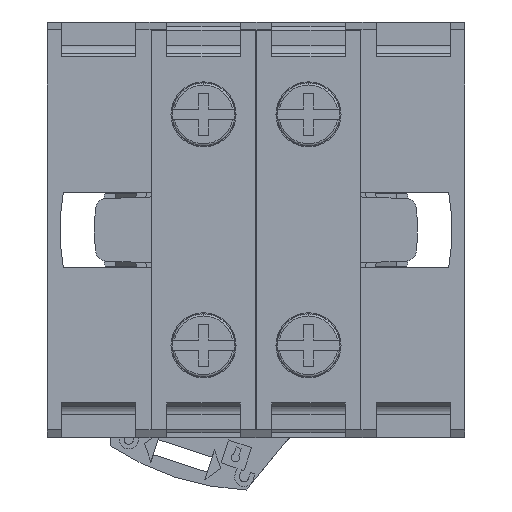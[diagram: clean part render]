
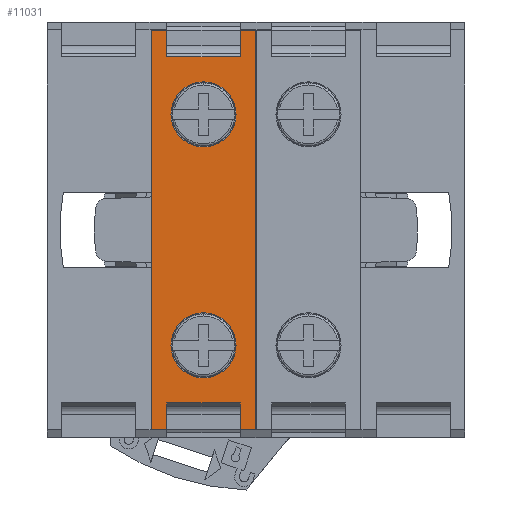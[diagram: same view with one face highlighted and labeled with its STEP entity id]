
A CAD part, front view. The second image highlights one B-rep face of the part: STEP entity #11031.
In plain terms, the highlighted planar face has unit normal (0, -1, 0).
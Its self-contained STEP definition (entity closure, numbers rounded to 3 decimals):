
#272 = VERTEX_POINT ( 'NONE', #5885 ) ;
#318 = CARTESIAN_POINT ( 'NONE',  ( 16.495, -12.75, 3.5 ) ) ;
#323 = FACE_BOUND ( 'NONE', #6827, .T. ) ;
#379 = VERTEX_POINT ( 'NONE', #6795 ) ;
#420 = CARTESIAN_POINT ( 'NONE',  ( 7.9, -12.75, 0. ) ) ;
#548 = ORIENTED_EDGE ( 'NONE', *, *, #5620, .F. ) ;
#590 = EDGE_CURVE ( 'NONE', #2925, #12801, #3428, .T. ) ;
#699 = CARTESIAN_POINT ( 'NONE',  ( 19., -12.75, -3.5 ) ) ;
#747 = LINE ( 'NONE', #7336, #3792 ) ;
#984 = ORIENTED_EDGE ( 'NONE', *, *, #6946, .T. ) ;
#1171 = EDGE_CURVE ( 'NONE', #6553, #12801, #747, .T. ) ;
#1457 = CARTESIAN_POINT ( 'NONE',  ( -19., -12.75, -3.5 ) ) ;
#1479 = EDGE_LOOP ( 'NONE', ( #10543, #984, #8548, #6884, #548, #3309, #8857, #5750, #12621, #13743, #14155, #8965 ) ) ;
#1507 = CIRCLE ( 'NONE', #10422, 3.1 ) ;
#1540 = CARTESIAN_POINT ( 'NONE',  ( 11., -12.75, 0. ) ) ;
#1587 = DIRECTION ( 'NONE',  ( -1., 0., 0. ) ) ;
#1611 = CARTESIAN_POINT ( 'NONE',  ( 19., -12.75, 3.5 ) ) ;
#1820 = VERTEX_POINT ( 'NONE', #2676 ) ;
#1822 = EDGE_CURVE ( 'NONE', #4811, #9354, #12672, .T. ) ;
#2129 = CARTESIAN_POINT ( 'NONE',  ( 11., -12.75, 0. ) ) ;
#2139 = VERTEX_POINT ( 'NONE', #12459 ) ;
#2482 = CARTESIAN_POINT ( 'NONE',  ( -19., -12.75, -4.95 ) ) ;
#2519 = VECTOR ( 'NONE', #13573, 1000. ) ;
#2523 = CARTESIAN_POINT ( 'NONE',  ( 19., -12.75, 3.5 ) ) ;
#2676 = CARTESIAN_POINT ( 'NONE',  ( -19., -12.75, 4.95 ) ) ;
#2689 = DIRECTION ( 'NONE',  ( -1., 0., 0. ) ) ;
#2925 = VERTEX_POINT ( 'NONE', #7267 ) ;
#3272 = DIRECTION ( 'NONE',  ( -1., 0., 0. ) ) ;
#3302 = EDGE_CURVE ( 'NONE', #9354, #13708, #10167, .T. ) ;
#3309 = ORIENTED_EDGE ( 'NONE', *, *, #10128, .T. ) ;
#3408 = ORIENTED_EDGE ( 'NONE', *, *, #5341, .F. ) ;
#3415 = LINE ( 'NONE', #10844, #12857 ) ;
#3428 = LINE ( 'NONE', #12986, #12153 ) ;
#3451 = EDGE_LOOP ( 'NONE', ( #5603, #10536 ) ) ;
#3680 = AXIS2_PLACEMENT_3D ( 'NONE', #9545, #6167, #14158 ) ;
#3699 = VERTEX_POINT ( 'NONE', #8023 ) ;
#3792 = VECTOR ( 'NONE', #14171, 1000. ) ;
#3820 = DIRECTION ( 'NONE',  ( 0., 0., 1. ) ) ;
#3891 = LINE ( 'NONE', #1611, #9574 ) ;
#4017 = AXIS2_PLACEMENT_3D ( 'NONE', #4266, #12238, #5397 ) ;
#4266 = CARTESIAN_POINT ( 'NONE',  ( -11., -12.75, 0. ) ) ;
#4741 = EDGE_CURVE ( 'NONE', #8634, #9794, #3891, .T. ) ;
#4811 = VERTEX_POINT ( 'NONE', #8790 ) ;
#4833 = DIRECTION ( 'NONE',  ( 0., 0., -1. ) ) ;
#5030 = PLANE ( 'NONE',  #3680 ) ;
#5273 = VECTOR ( 'NONE', #4833, 1000. ) ;
#5290 = CARTESIAN_POINT ( 'NONE',  ( -11., -12.75, 0. ) ) ;
#5341 = EDGE_CURVE ( 'NONE', #6027, #379, #8861, .T. ) ;
#5397 = DIRECTION ( 'NONE',  ( 1., 0., 0. ) ) ;
#5528 = LINE ( 'NONE', #8966, #2519 ) ;
#5603 = ORIENTED_EDGE ( 'NONE', *, *, #8543, .T. ) ;
#5620 = EDGE_CURVE ( 'NONE', #10441, #3699, #14058, .T. ) ;
#5624 = LINE ( 'NONE', #12799, #5273 ) ;
#5750 = ORIENTED_EDGE ( 'NONE', *, *, #1171, .F. ) ;
#5885 = CARTESIAN_POINT ( 'NONE',  ( 14.1, -12.75, 0. ) ) ;
#6021 = ORIENTED_EDGE ( 'NONE', *, *, #9991, .F. ) ;
#6027 = VERTEX_POINT ( 'NONE', #10460 ) ;
#6074 = DIRECTION ( 'NONE',  ( 1., 0., 0. ) ) ;
#6076 = CIRCLE ( 'NONE', #7195, 3.1 ) ;
#6148 = CARTESIAN_POINT ( 'NONE',  ( 19., -12.75, -3.5 ) ) ;
#6167 = DIRECTION ( 'NONE',  ( 0., -1., 0. ) ) ;
#6169 = DIRECTION ( 'NONE',  ( -1., 0., 0. ) ) ;
#6256 = DIRECTION ( 'NONE',  ( 1., 0., 0. ) ) ;
#6347 = LINE ( 'NONE', #11122, #12057 ) ;
#6442 = DIRECTION ( 'NONE',  ( 1., 0., 0. ) ) ;
#6553 = VERTEX_POINT ( 'NONE', #2482 ) ;
#6795 = CARTESIAN_POINT ( 'NONE',  ( -7.9, -12.75, 0. ) ) ;
#6827 = EDGE_LOOP ( 'NONE', ( #6021, #3408 ) ) ;
#6859 = LINE ( 'NONE', #10569, #9530 ) ;
#6884 = ORIENTED_EDGE ( 'NONE', *, *, #14431, .F. ) ;
#6946 = EDGE_CURVE ( 'NONE', #8634, #2139, #6347, .T. ) ;
#7031 = EDGE_CURVE ( 'NONE', #9794, #13708, #5624, .T. ) ;
#7195 = AXIS2_PLACEMENT_3D ( 'NONE', #5290, #13278, #6442 ) ;
#7267 = CARTESIAN_POINT ( 'NONE',  ( -16.495, -12.75, -3.5 ) ) ;
#7336 = CARTESIAN_POINT ( 'NONE',  ( -19., -12.75, -4.95 ) ) ;
#7717 = VERTEX_POINT ( 'NONE', #420 ) ;
#8023 = CARTESIAN_POINT ( 'NONE',  ( -19., -12.75, 3.5 ) ) ;
#8339 = CARTESIAN_POINT ( 'NONE',  ( 19., -12.75, -4.95 ) ) ;
#8343 = VECTOR ( 'NONE', #8995, 1000. ) ;
#8543 = EDGE_CURVE ( 'NONE', #272, #7717, #1507, .T. ) ;
#8548 = ORIENTED_EDGE ( 'NONE', *, *, #9905, .F. ) ;
#8634 = VERTEX_POINT ( 'NONE', #11943 ) ;
#8790 = CARTESIAN_POINT ( 'NONE',  ( 19., -12.75, -4.95 ) ) ;
#8857 = ORIENTED_EDGE ( 'NONE', *, *, #590, .T. ) ;
#8861 = CIRCLE ( 'NONE', #4017, 3.1 ) ;
#8907 = VECTOR ( 'NONE', #3820, 1000. ) ;
#8965 = ORIENTED_EDGE ( 'NONE', *, *, #7031, .F. ) ;
#8966 = CARTESIAN_POINT ( 'NONE',  ( -16.495, -12.75, -4.95 ) ) ;
#8995 = DIRECTION ( 'NONE',  ( 0., 0., 1. ) ) ;
#9354 = VERTEX_POINT ( 'NONE', #699 ) ;
#9411 = FACE_OUTER_BOUND ( 'NONE', #1479, .T. ) ;
#9487 = DIRECTION ( 'NONE',  ( 0., 1., 0. ) ) ;
#9530 = VECTOR ( 'NONE', #6074, 1000. ) ;
#9545 = CARTESIAN_POINT ( 'NONE',  ( 19., -12.75, -4.95 ) ) ;
#9574 = VECTOR ( 'NONE', #6169, 1000. ) ;
#9794 = VERTEX_POINT ( 'NONE', #318 ) ;
#9905 = EDGE_CURVE ( 'NONE', #1820, #2139, #3415, .T. ) ;
#9981 = CARTESIAN_POINT ( 'NONE',  ( 16.495, -12.75, -3.5 ) ) ;
#9991 = EDGE_CURVE ( 'NONE', #379, #6027, #6076, .T. ) ;
#10073 = DIRECTION ( 'NONE',  ( 0., 1., 0. ) ) ;
#10128 = EDGE_CURVE ( 'NONE', #10441, #2925, #5528, .T. ) ;
#10167 = LINE ( 'NONE', #6148, #10537 ) ;
#10422 = AXIS2_PLACEMENT_3D ( 'NONE', #1540, #9487, #2689 ) ;
#10441 = VERTEX_POINT ( 'NONE', #10677 ) ;
#10460 = CARTESIAN_POINT ( 'NONE',  ( -14.1, -12.75, 0. ) ) ;
#10536 = ORIENTED_EDGE ( 'NONE', *, *, #13731, .T. ) ;
#10537 = VECTOR ( 'NONE', #1587, 1000. ) ;
#10543 = ORIENTED_EDGE ( 'NONE', *, *, #4741, .F. ) ;
#10569 = CARTESIAN_POINT ( 'NONE',  ( 19., -12.75, -4.95 ) ) ;
#10677 = CARTESIAN_POINT ( 'NONE',  ( -16.495, -12.75, 3.5 ) ) ;
#10844 = CARTESIAN_POINT ( 'NONE',  ( 19., -12.75, 4.95 ) ) ;
#11007 = VECTOR ( 'NONE', #14370, 1000. ) ;
#11031 = ADVANCED_FACE ( 'NONE', ( #9411, #323, #12453 ), #5030, .T. ) ;
#11122 = CARTESIAN_POINT ( 'NONE',  ( 19., -12.75, -4.95 ) ) ;
#11735 = LINE ( 'NONE', #14727, #8343 ) ;
#11840 = DIRECTION ( 'NONE',  ( -1., 0., 0. ) ) ;
#11943 = CARTESIAN_POINT ( 'NONE',  ( 19., -12.75, 3.5 ) ) ;
#12057 = VECTOR ( 'NONE', #12273, 1000. ) ;
#12153 = VECTOR ( 'NONE', #11840, 1000. ) ;
#12238 = DIRECTION ( 'NONE',  ( 0., -1., 0. ) ) ;
#12273 = DIRECTION ( 'NONE',  ( 0., 0., 1. ) ) ;
#12453 = FACE_BOUND ( 'NONE', #3451, .T. ) ;
#12459 = CARTESIAN_POINT ( 'NONE',  ( 19., -12.75, 4.95 ) ) ;
#12621 = ORIENTED_EDGE ( 'NONE', *, *, #12870, .T. ) ;
#12672 = LINE ( 'NONE', #8339, #8907 ) ;
#12799 = CARTESIAN_POINT ( 'NONE',  ( 16.495, -12.75, -4.95 ) ) ;
#12801 = VERTEX_POINT ( 'NONE', #1457 ) ;
#12857 = VECTOR ( 'NONE', #6256, 1000. ) ;
#12870 = EDGE_CURVE ( 'NONE', #6553, #4811, #6859, .T. ) ;
#12923 = CIRCLE ( 'NONE', #13904, 3.1 ) ;
#12986 = CARTESIAN_POINT ( 'NONE',  ( 19., -12.75, -3.5 ) ) ;
#13278 = DIRECTION ( 'NONE',  ( 0., -1., 0. ) ) ;
#13573 = DIRECTION ( 'NONE',  ( 0., 0., -1. ) ) ;
#13708 = VERTEX_POINT ( 'NONE', #9981 ) ;
#13731 = EDGE_CURVE ( 'NONE', #7717, #272, #12923, .T. ) ;
#13743 = ORIENTED_EDGE ( 'NONE', *, *, #1822, .T. ) ;
#13904 = AXIS2_PLACEMENT_3D ( 'NONE', #2129, #10073, #3272 ) ;
#14058 = LINE ( 'NONE', #2523, #11007 ) ;
#14155 = ORIENTED_EDGE ( 'NONE', *, *, #3302, .T. ) ;
#14158 = DIRECTION ( 'NONE',  ( 1., 0., 0. ) ) ;
#14171 = DIRECTION ( 'NONE',  ( 0., 0., 1. ) ) ;
#14370 = DIRECTION ( 'NONE',  ( -1., 0., 0. ) ) ;
#14431 = EDGE_CURVE ( 'NONE', #3699, #1820, #11735, .T. ) ;
#14727 = CARTESIAN_POINT ( 'NONE',  ( -19., -12.75, -4.95 ) ) ;
